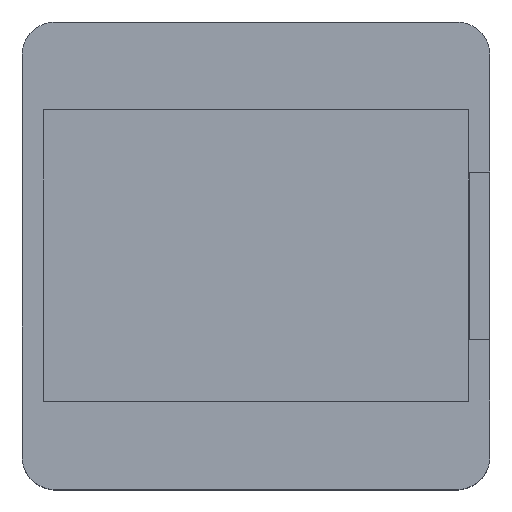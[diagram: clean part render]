
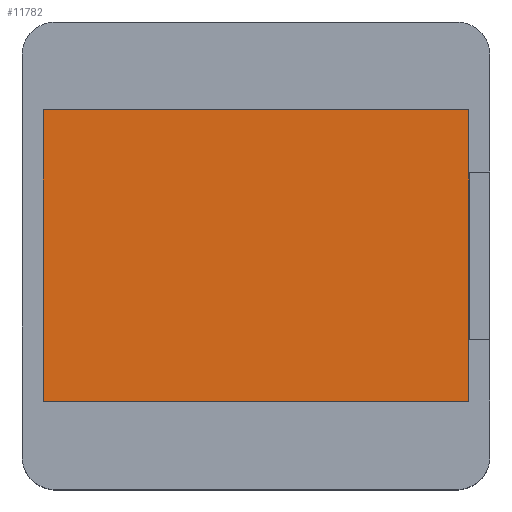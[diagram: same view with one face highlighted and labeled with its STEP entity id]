
A CAD part, top view. The second image highlights one B-rep face of the part: STEP entity #11782.
In plain terms, the highlighted planar face has unit normal (0, 0, 1).
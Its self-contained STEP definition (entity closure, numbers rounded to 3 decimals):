
#10626 = PLANE('',#10627);
#10627 = AXIS2_PLACEMENT_3D('',#10628,#10629,#10630);
#10628 = CARTESIAN_POINT('',(53.3,42.921,25.489));
#10629 = DIRECTION('',(1.,0.,0.));
#10630 = DIRECTION('',(-0.,0.,1.));
#10654 = PLANE('',#10655);
#10655 = AXIS2_PLACEMENT_3D('',#10656,#10657,#10658);
#10656 = CARTESIAN_POINT('',(25.644,10.5,28.056));
#10657 = DIRECTION('',(-0.,-1.,-0.));
#10658 = DIRECTION('',(0.,0.,-1.));
#10682 = PLANE('',#10683);
#10683 = AXIS2_PLACEMENT_3D('',#10684,#10685,#10686);
#10684 = CARTESIAN_POINT('',(2.5,30.048,23.652));
#10685 = DIRECTION('',(-1.,-0.,-0.));
#10686 = DIRECTION('',(0.,0.,-1.));
#10710 = PLANE('',#10711);
#10711 = AXIS2_PLACEMENT_3D('',#10712,#10713,#10714);
#10712 = CARTESIAN_POINT('',(30.156,45.3,28.056));
#10713 = DIRECTION('',(0.,1.,0.));
#10714 = DIRECTION('',(0.,-0.,1.));
#11711 = VERTEX_POINT('',#11712);
#11712 = CARTESIAN_POINT('',(2.5,45.3,30.8));
#11735 = VERTEX_POINT('',#11736);
#11736 = CARTESIAN_POINT('',(2.5,10.5,30.8));
#11757 = EDGE_CURVE('',#11711,#11735,#11758,.T.);
#11758 = SURFACE_CURVE('',#11759,(#11763,#11770),.PCURVE_S1.);
#11759 = LINE('',#11760,#11761);
#11760 = CARTESIAN_POINT('',(2.5,45.3,30.8));
#11761 = VECTOR('',#11762,1.);
#11762 = DIRECTION('',(0.,-1.,0.));
#11763 = PCURVE('',#10682,#11764);
#11764 = DEFINITIONAL_REPRESENTATION('',(#11765),#11769);
#11765 = LINE('',#11766,#11767);
#11766 = CARTESIAN_POINT('',(-7.148,-15.252));
#11767 = VECTOR('',#11768,1.);
#11768 = DIRECTION('',(0.,1.));
#11769 = ( GEOMETRIC_REPRESENTATION_CONTEXT(2) 
PARAMETRIC_REPRESENTATION_CONTEXT() REPRESENTATION_CONTEXT('2D SPACE',''
  ) );
#11770 = PCURVE('',#11771,#11776);
#11771 = PLANE('',#11772);
#11772 = AXIS2_PLACEMENT_3D('',#11773,#11774,#11775);
#11773 = CARTESIAN_POINT('',(33.906,33.906,30.8));
#11774 = DIRECTION('',(0.,0.,1.));
#11775 = DIRECTION('',(1.,0.,-0.));
#11776 = DEFINITIONAL_REPRESENTATION('',(#11777),#11781);
#11777 = LINE('',#11778,#11779);
#11778 = CARTESIAN_POINT('',(-31.406,11.394));
#11779 = VECTOR('',#11780,1.);
#11780 = DIRECTION('',(0.,-1.));
#11781 = ( GEOMETRIC_REPRESENTATION_CONTEXT(2) 
PARAMETRIC_REPRESENTATION_CONTEXT() REPRESENTATION_CONTEXT('2D SPACE',''
  ) );
#11782 = ADVANCED_FACE('',(#11783),#11771,.T.);
#11783 = FACE_BOUND('',#11784,.T.);
#11784 = EDGE_LOOP('',(#11785,#11810,#11831,#11832));
#11785 = ORIENTED_EDGE('',*,*,#11786,.T.);
#11786 = EDGE_CURVE('',#11787,#11789,#11791,.T.);
#11787 = VERTEX_POINT('',#11788);
#11788 = CARTESIAN_POINT('',(53.3,10.5,30.8));
#11789 = VERTEX_POINT('',#11790);
#11790 = CARTESIAN_POINT('',(53.3,45.3,30.8));
#11791 = SURFACE_CURVE('',#11792,(#11796,#11803),.PCURVE_S1.);
#11792 = LINE('',#11793,#11794);
#11793 = CARTESIAN_POINT('',(53.3,10.5,30.8));
#11794 = VECTOR('',#11795,1.);
#11795 = DIRECTION('',(0.,1.,0.));
#11796 = PCURVE('',#11771,#11797);
#11797 = DEFINITIONAL_REPRESENTATION('',(#11798),#11802);
#11798 = LINE('',#11799,#11800);
#11799 = CARTESIAN_POINT('',(19.394,-23.406));
#11800 = VECTOR('',#11801,1.);
#11801 = DIRECTION('',(0.,1.));
#11802 = ( GEOMETRIC_REPRESENTATION_CONTEXT(2) 
PARAMETRIC_REPRESENTATION_CONTEXT() REPRESENTATION_CONTEXT('2D SPACE',''
  ) );
#11803 = PCURVE('',#10626,#11804);
#11804 = DEFINITIONAL_REPRESENTATION('',(#11805),#11809);
#11805 = LINE('',#11806,#11807);
#11806 = CARTESIAN_POINT('',(5.311,32.421));
#11807 = VECTOR('',#11808,1.);
#11808 = DIRECTION('',(0.,-1.));
#11809 = ( GEOMETRIC_REPRESENTATION_CONTEXT(2) 
PARAMETRIC_REPRESENTATION_CONTEXT() REPRESENTATION_CONTEXT('2D SPACE',''
  ) );
#11810 = ORIENTED_EDGE('',*,*,#11811,.F.);
#11811 = EDGE_CURVE('',#11711,#11789,#11812,.T.);
#11812 = SURFACE_CURVE('',#11813,(#11817,#11824),.PCURVE_S1.);
#11813 = LINE('',#11814,#11815);
#11814 = CARTESIAN_POINT('',(2.5,45.3,30.8));
#11815 = VECTOR('',#11816,1.);
#11816 = DIRECTION('',(1.,0.,0.));
#11817 = PCURVE('',#11771,#11818);
#11818 = DEFINITIONAL_REPRESENTATION('',(#11819),#11823);
#11819 = LINE('',#11820,#11821);
#11820 = CARTESIAN_POINT('',(-31.406,11.394));
#11821 = VECTOR('',#11822,1.);
#11822 = DIRECTION('',(1.,0.));
#11823 = ( GEOMETRIC_REPRESENTATION_CONTEXT(2) 
PARAMETRIC_REPRESENTATION_CONTEXT() REPRESENTATION_CONTEXT('2D SPACE',''
  ) );
#11824 = PCURVE('',#10710,#11825);
#11825 = DEFINITIONAL_REPRESENTATION('',(#11826),#11830);
#11826 = LINE('',#11827,#11828);
#11827 = CARTESIAN_POINT('',(2.744,-27.656));
#11828 = VECTOR('',#11829,1.);
#11829 = DIRECTION('',(0.,1.));
#11830 = ( GEOMETRIC_REPRESENTATION_CONTEXT(2) 
PARAMETRIC_REPRESENTATION_CONTEXT() REPRESENTATION_CONTEXT('2D SPACE',''
  ) );
#11831 = ORIENTED_EDGE('',*,*,#11757,.T.);
#11832 = ORIENTED_EDGE('',*,*,#11833,.T.);
#11833 = EDGE_CURVE('',#11735,#11787,#11834,.T.);
#11834 = SURFACE_CURVE('',#11835,(#11839,#11846),.PCURVE_S1.);
#11835 = LINE('',#11836,#11837);
#11836 = CARTESIAN_POINT('',(2.5,10.5,30.8));
#11837 = VECTOR('',#11838,1.);
#11838 = DIRECTION('',(1.,0.,0.));
#11839 = PCURVE('',#11771,#11840);
#11840 = DEFINITIONAL_REPRESENTATION('',(#11841),#11845);
#11841 = LINE('',#11842,#11843);
#11842 = CARTESIAN_POINT('',(-31.406,-23.406));
#11843 = VECTOR('',#11844,1.);
#11844 = DIRECTION('',(1.,0.));
#11845 = ( GEOMETRIC_REPRESENTATION_CONTEXT(2) 
PARAMETRIC_REPRESENTATION_CONTEXT() REPRESENTATION_CONTEXT('2D SPACE',''
  ) );
#11846 = PCURVE('',#10654,#11847);
#11847 = DEFINITIONAL_REPRESENTATION('',(#11848),#11852);
#11848 = LINE('',#11849,#11850);
#11849 = CARTESIAN_POINT('',(-2.744,-23.144));
#11850 = VECTOR('',#11851,1.);
#11851 = DIRECTION('',(0.,1.));
#11852 = ( GEOMETRIC_REPRESENTATION_CONTEXT(2) 
PARAMETRIC_REPRESENTATION_CONTEXT() REPRESENTATION_CONTEXT('2D SPACE',''
  ) );
